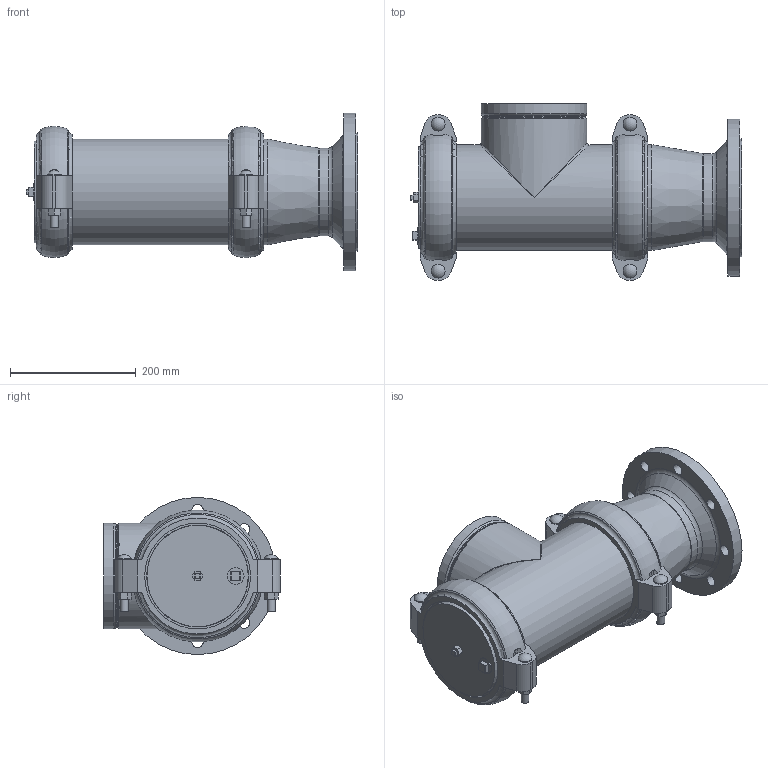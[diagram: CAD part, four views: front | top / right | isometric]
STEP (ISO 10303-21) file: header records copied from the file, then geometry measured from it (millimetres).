
FILE_DESCRIPTION(/* description */ ('VIC STRENGTHIN SUCTION DIFFUSER SERIES E431','CAx-IF Rec.Pracs.---Representation and Presentation of Product Manufacturing Information (PMI)---4.0---2014-10-13'),/* implementation_level */ '2;1');
FILE_NAME(/* name */ 'C:\Users\Vjadhav\AppData\Roaming\Autodesk\ApplicationPlugins\Back Up\Victaulic_SS-StrengThin 100_Suction Diffuser_PN16_Series E431 (ST1xFLG)\Victaulic_SS-StrengThin 100_Suction Diffuser_PN16_06.0x05.0 (139.7) (150x125).stp',/* time_stamp */ '2020-07-07T13:03:01+06:00',/* author */ ('VJadhav'),/* organization */ ('Victaulic'),/* preprocessor_version */ 'ST-DEVELOPER v17.2',/* originating_system */ 'Autodesk Inventor 2019',/* authorisation */ '');
FILE_SCHEMA (('AP242_MANAGED_MODEL_BASED_3D_ENGINEERING_MIM_LF { 1 0 10303 442 1 1 4 }'));
Length unit declared in the file: inch
Products named in the file (5): E431-06.0x05.0 (139.7); E492-06.0; E431-06.0; E497-06.0; E431-06.0_1
Assembly tree (5 placements, depth 2):
  E431-06.0x05.0 (139.7)
    E492-06.0
    E497-06.0  x2
    E431-06.0
    E431-06.0_1
Bounding box: 527.05 x 280.92 x 249.94 mm (x, y, z)
Volume: 3716718.2 mm3; surface area: 892477.4 mm2
Topology: 5 solids, 5 shells, 312 faces, 885 edges, 596 vertices
Faces by surface type: plane 115, cylinder 108, torus 63, cone 12, sphere 12, bspline 2
Full cylindrical faces by diameter (mm): 12.7 x8, 18.009 x8, 22.225 x4, 26.67 x1, 131.699 x1, 131.826 x1, 138.43 x1, 139.7 x1, 155.575 x2, 159.258 x3, 161.417 x1, 163.271 x3, 164.262 x5, 168.275 x11, 187.96 x1, 249.936 x1
Entity records: 8743 total; most frequent: CARTESIAN_POINT 1827, DIRECTION 1507, ORIENTED_EDGE 1324, EDGE_CURVE 662, AXIS2_PLACEMENT_3D 640, VERTEX_POINT 450, CIRCLE 388, EDGE_LOOP 278
